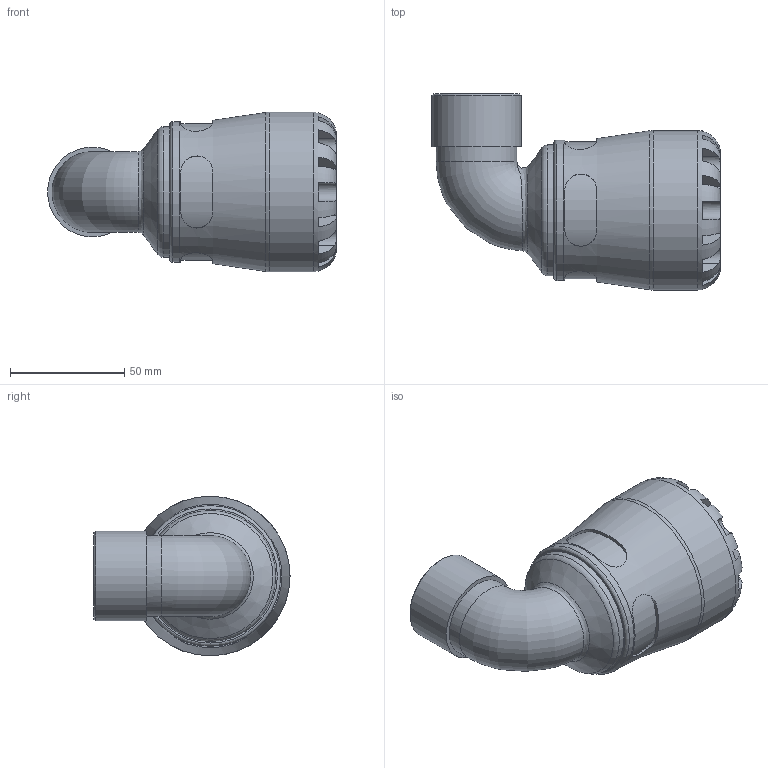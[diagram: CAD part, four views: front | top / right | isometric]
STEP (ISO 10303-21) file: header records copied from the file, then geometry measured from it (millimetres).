
FILE_DESCRIPTION(/* description */ ('PLASSON 90° ELBOW WITH THREADED FEMALE OFFTAKE 40X1" SERIES 1'),/* implementation_level */ '2;1');
FILE_NAME(/* name */ 'C:\Dropbox\KIMPROJECTS-Inventor\99-16-3568-Processing\S1\1015\101500040010_191500040010.ipt.stp',/* time_stamp */ '2017-07-30T11:52:01+03:00',/* author */ ('KIM'),/* organization */ (''),/* preprocessor_version */ 'ST-DEVELOPER v15.6',/* originating_system */ 'Autodesk Inventor 2015',/* authorisation */ '');
FILE_SCHEMA (('AUTOMOTIVE_DESIGN { 1 0 10303 214 3 1 1 }'));
Length unit declared in the file: millimetre
Products named in the file (1): 101500040010_191500040010
Bounding box: 126.69 x 86 x 70 mm (x, y, z)
Volume: 198766.7 mm3; surface area: 46732.8 mm2
Topology: 1 solids, 1 shells, 111 faces, 271 edges, 169 vertices
Faces by surface type: plane 62, cylinder 37, torus 7, cone 3, bspline 2
Full cylindrical faces by diameter (mm): 27.262 x2, 30.291 x1, 35.44 x1, 39.378 x1, 40 x1, 57.4 x1, 61.6 x1, 70 x1
Entity records: 4272 total; most frequent: CARTESIAN_POINT 1821, DIRECTION 494, ORIENTED_EDGE 490, EDGE_CURVE 245, AXIS2_PLACEMENT_3D 207, VERTEX_POINT 162, EDGE_LOOP 139, FACE_OUTER_BOUND 111
